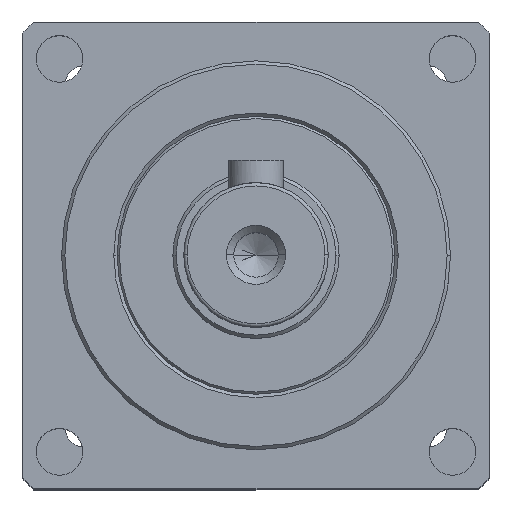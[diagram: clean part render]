
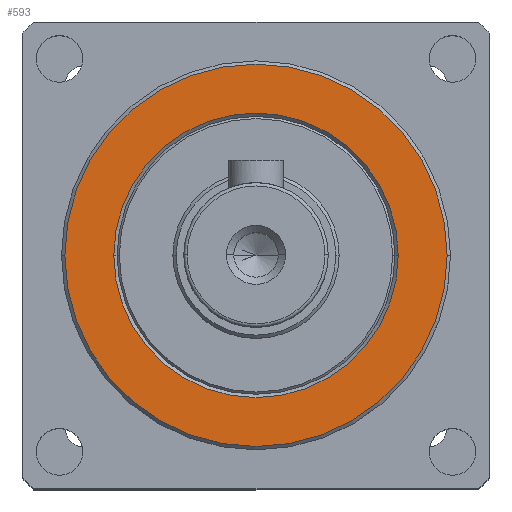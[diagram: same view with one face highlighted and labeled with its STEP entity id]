
A CAD part, top view. The second image highlights one B-rep face of the part: STEP entity #593.
In plain terms, the highlighted planar face has unit normal (0, 0, 1).
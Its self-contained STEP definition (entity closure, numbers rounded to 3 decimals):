
#349 = DIRECTION ( 'NONE',  ( 1., 0., 0. ) ) ;
#418 = AXIS2_PLACEMENT_3D ( 'NONE', #7169, #3768, #349 ) ;
#521 = VERTEX_POINT ( 'NONE', #877 ) ;
#564 = DIRECTION ( 'NONE',  ( 1., 0., 0. ) ) ;
#593 = ADVANCED_FACE ( 'NONE', ( #6722, #3686 ), #1477, .T. ) ;
#877 = CARTESIAN_POINT ( 'NONE',  ( 3.8, 21., 66.5 ) ) ;
#1306 = ORIENTED_EDGE ( 'NONE', *, *, #4472, .T. ) ;
#1477 = PLANE ( 'NONE',  #2547 ) ;
#1789 = CIRCLE ( 'NONE', #418, 12.8 ) ;
#1973 = VERTEX_POINT ( 'NONE', #4647 ) ;
#2164 = DIRECTION ( 'NONE',  ( 0., 0., 1. ) ) ;
#2275 = CARTESIAN_POINT ( 'NONE',  ( 21., 21., 66.5 ) ) ;
#2384 = EDGE_LOOP ( 'NONE', ( #1306, #4340 ) ) ;
#2390 = AXIS2_PLACEMENT_3D ( 'NONE', #2598, #6566, #3147 ) ;
#2459 = ORIENTED_EDGE ( 'NONE', *, *, #4226, .T. ) ;
#2547 = AXIS2_PLACEMENT_3D ( 'NONE', #5385, #2829, #564 ) ;
#2598 = CARTESIAN_POINT ( 'NONE',  ( 21., 21., 66.5 ) ) ;
#2829 = DIRECTION ( 'NONE',  ( 0., 0., 1. ) ) ;
#2841 = DIRECTION ( 'NONE',  ( 1., 0., 0. ) ) ;
#3147 = DIRECTION ( 'NONE',  ( 1., 0., 0. ) ) ;
#3342 = CIRCLE ( 'NONE', #4923, 17.2 ) ;
#3636 = VERTEX_POINT ( 'NONE', #4253 ) ;
#3686 = FACE_OUTER_BOUND ( 'NONE', #2384, .T. ) ;
#3768 = DIRECTION ( 'NONE',  ( 0., 0., -1. ) ) ;
#4061 = AXIS2_PLACEMENT_3D ( 'NONE', #5571, #2164, #6141 ) ;
#4093 = EDGE_LOOP ( 'NONE', ( #5148, #2459 ) ) ;
#4226 = EDGE_CURVE ( 'NONE', #5052, #3636, #5224, .T. ) ;
#4253 = CARTESIAN_POINT ( 'NONE',  ( 33.8, 21., 66.5 ) ) ;
#4340 = ORIENTED_EDGE ( 'NONE', *, *, #6499, .T. ) ;
#4472 = EDGE_CURVE ( 'NONE', #521, #1973, #3342, .T. ) ;
#4647 = CARTESIAN_POINT ( 'NONE',  ( 38.2, 21., 66.5 ) ) ;
#4923 = AXIS2_PLACEMENT_3D ( 'NONE', #2275, #6252, #2841 ) ;
#5052 = VERTEX_POINT ( 'NONE', #5547 ) ;
#5148 = ORIENTED_EDGE ( 'NONE', *, *, #6991, .T. ) ;
#5224 = CIRCLE ( 'NONE', #2390, 12.8 ) ;
#5385 = CARTESIAN_POINT ( 'NONE',  ( 21., 21., 66.5 ) ) ;
#5547 = CARTESIAN_POINT ( 'NONE',  ( 8.2, 21., 66.5 ) ) ;
#5571 = CARTESIAN_POINT ( 'NONE',  ( 21., 21., 66.5 ) ) ;
#6075 = CIRCLE ( 'NONE', #4061, 17.2 ) ;
#6141 = DIRECTION ( 'NONE',  ( 1., 0., 0. ) ) ;
#6252 = DIRECTION ( 'NONE',  ( 0., 0., 1. ) ) ;
#6499 = EDGE_CURVE ( 'NONE', #1973, #521, #6075, .T. ) ;
#6566 = DIRECTION ( 'NONE',  ( 0., 0., -1. ) ) ;
#6722 = FACE_BOUND ( 'NONE', #4093, .T. ) ;
#6991 = EDGE_CURVE ( 'NONE', #3636, #5052, #1789, .T. ) ;
#7169 = CARTESIAN_POINT ( 'NONE',  ( 21., 21., 66.5 ) ) ;
